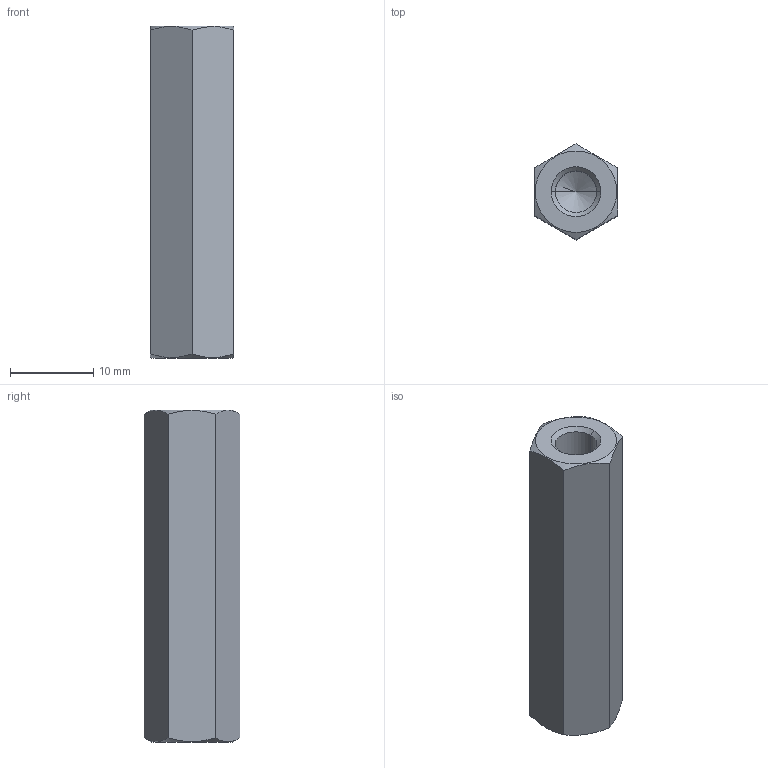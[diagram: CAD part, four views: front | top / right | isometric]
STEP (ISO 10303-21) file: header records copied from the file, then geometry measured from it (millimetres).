
FILE_DESCRIPTION (( 'STEP AP214' ), '1' );
FILE_NAME ('6220-ST-M6-40-A.step', '2019-02-25T07:39:05', ( 'user' ), ( '' ), 'SwSTEP 2.0', 'SolidWorks 2017', '' );
FILE_SCHEMA (( 'AUTOMOTIVE_DESIGN' ));
Length unit declared in the file: millimetre
Products named in the file (1): 6220-ST-M6-40-A
Bounding box: 10 x 11.55 x 40 mm (x, y, z)
Volume: 2765.5 mm3; surface area: 2082.9 mm2
Topology: 1 solids, 1 shells, 24 faces, 58 edges, 34 vertices
Faces by surface type: cone 12, plane 8, cylinder 4
Entity records: 824 total; most frequent: CARTESIAN_POINT 225, ORIENTED_EDGE 108, DIRECTION 104, EDGE_CURVE 54, AXIS2_PLACEMENT_3D 41, VERTEX_POINT 34, EDGE_LOOP 26, ADVANCED_FACE 24
